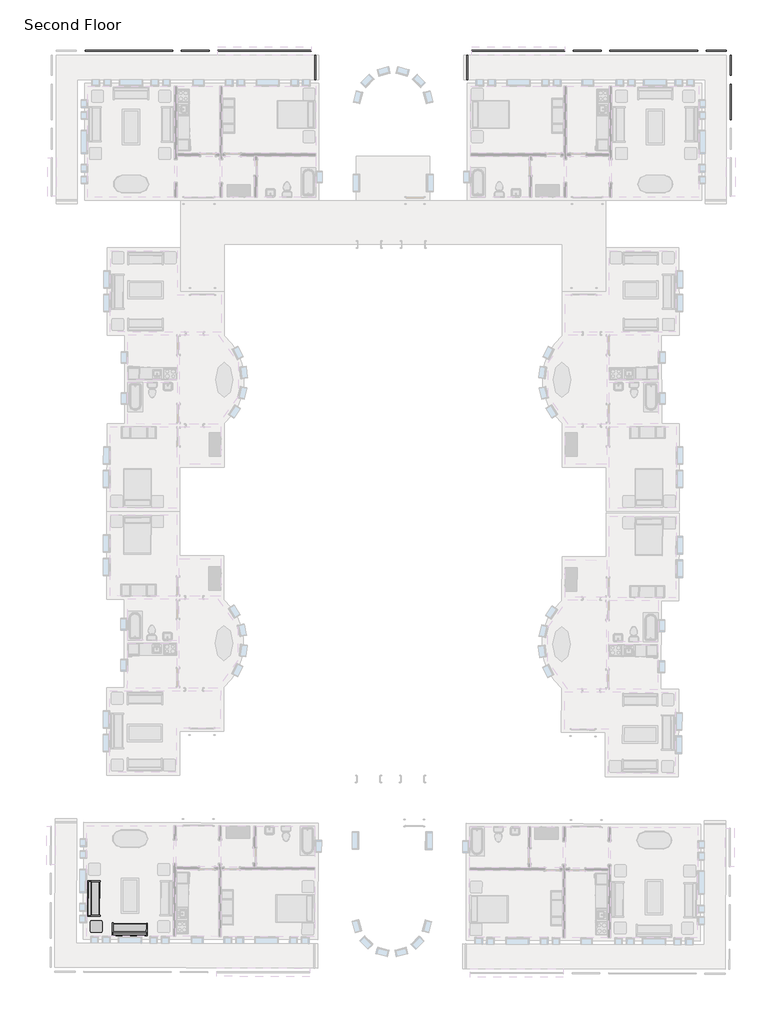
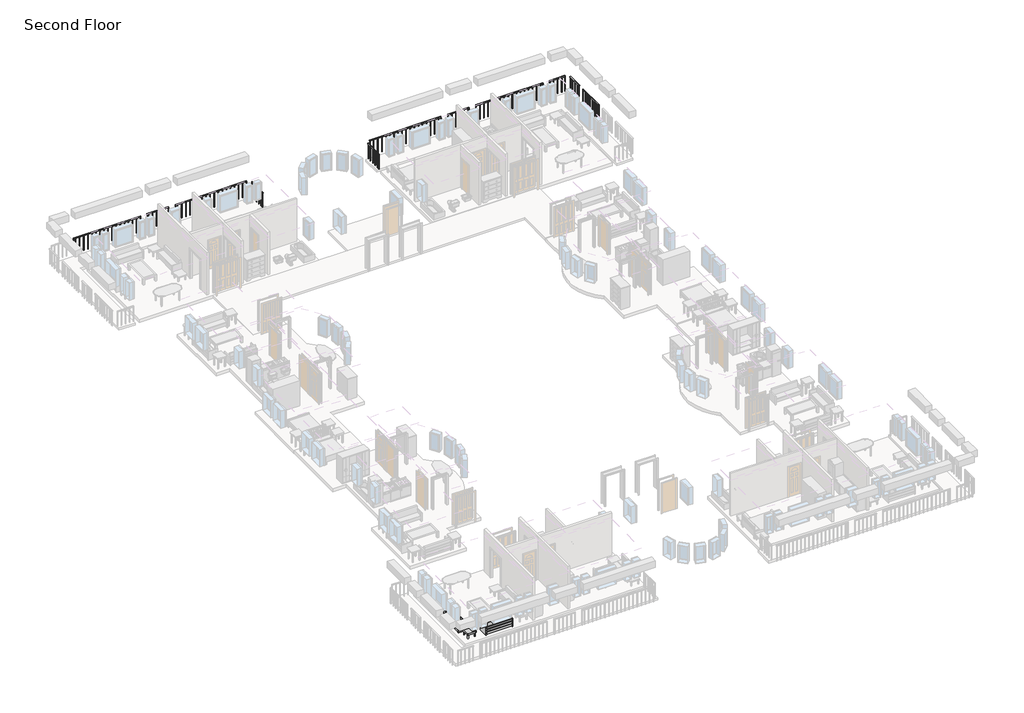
# One storey, part 6 of 8: 11 railings, 3 furniture elements.
"""IFC4 building model written with IfcOpenShell, lengths in millimetres."""

from ifc_helpers import new_model, si_unit, frame, origin, place, context, project, spatial, polyline, outline, extrude, transform, mapped, element, save
from components import m_sofa_1830mm_58d08fc1, m_table_end_cb6ea12e

model = new_model("IFC4")

# Units and contexts
model_context = context("Model", 3, world=origin())
ifc_project = project(units=[si_unit("LENGTHUNIT", "METRE", prefix="MILLI")], contexts=[model_context])

# Site, building, storey
site = spatial("IfcSite", under=ifc_project)
building = spatial("IfcBuilding", under=site)
storey = spatial("IfcBuildingStorey", under=building, Name="Second Floor", Elevation=3048.0)

# Furniture
placement = place(None, origin())
m_sofa_1830mm_shape = m_sofa_1830mm_58d08fc1(model_context)
element("IfcFurniture", 1, ObjectType="M_Sofa : 1830mm", at=placement, inside=storey, context=model_context, shape_type="MappedRepresentation", body=[
    mapped(m_sofa_1830mm_shape, transform((-32562.8997947, -41230.7335351, 3048.0), x_axis=(-0.9999958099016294, 0.0028948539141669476, 0.0), y_axis=(-0.0028948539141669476, -0.9999958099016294, 0.0), z_axis=(0.0, 0.0, 1.0))),
])
element("IfcFurniture", 2, ObjectType="M_Sofa : 1830mm", at=placement, inside=storey, context=model_context, shape_type="MappedRepresentation", body=[
    mapped(m_sofa_1830mm_shape, transform((-34355.4280294, -39842.8427064, 3048.0), x_axis=(0.0028948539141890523, 0.9999958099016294, 0.0), y_axis=(-0.9999958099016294, 0.0028948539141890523, 0.0), z_axis=(0.0, 0.0, 1.0))),
])
m_table_end_shape = m_table_end_cb6ea12e(model_context)
element("IfcFurniture", 3, ObjectType="M_Table-End : 0610 x 0160mm altered height", at=placement, inside=storey, context=model_context, shape_type="MappedRepresentation", body=[
    mapped(m_table_end_shape, transform((-34069.0925084, -41075.1267736, 3048.0), x_axis=(-0.9999958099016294, 0.0028948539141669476, 0.0), y_axis=(-0.0028948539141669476, -0.9999958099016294, 0.0), z_axis=(0.0, 0.0, 1.0))),
])

# Railings
element("IfcRailing", 4, ObjectType="1100mm", at=placement, inside=storey, context=model_context, shape_type="SweptSolid", body=[
    extrude(outline(polyline([(-14885.3416203, 4231.1188386), (-14885.3416203, 4281.1188386), (-10043.3416203, 4281.1188386), (-10043.3416203, 4231.1188386), (-14885.3416203, 4231.1188386)])), frame((0.0, 0.0, 4098.0), z_axis=(0.0, 0.0, 1.0), x_axis=(1.0, 0.0, 0.0)), (0.0, 0.0, 1.0), 50.0),
    extrude(outline(polyline([(-10222.8416203, 4243.6188386), (-10222.8416203, 4268.6188386), (-10197.8416203, 4268.6188386), (-10197.8416203, 4243.6188386), (-10222.8416203, 4243.6188386)])), frame((0.0, 0.0, 3048.0), z_axis=(0.0, 0.0, 1.0), x_axis=(1.0, 0.0, 0.0)), (0.0, 0.0, 1.0), 1050.0),
    extrude(outline(polyline([(-10497.8416203, 4243.6188386), (-10497.8416203, 4268.6188386), (-10472.8416203, 4268.6188386), (-10472.8416203, 4243.6188386), (-10497.8416203, 4243.6188386)])), frame((0.0, 0.0, 3048.0), z_axis=(0.0, 0.0, 1.0), x_axis=(1.0, 0.0, 0.0)), (0.0, 0.0, 1.0), 1050.0),
    extrude(outline(polyline([(-10772.8416203, 4243.6188386), (-10772.8416203, 4268.6188386), (-10747.8416203, 4268.6188386), (-10747.8416203, 4243.6188386), (-10772.8416203, 4243.6188386)])), frame((0.0, 0.0, 3048.0), z_axis=(0.0, 0.0, 1.0), x_axis=(1.0, 0.0, 0.0)), (0.0, 0.0, 1.0), 1050.0),
    extrude(outline(polyline([(-11047.8416203, 4243.6188386), (-11047.8416203, 4268.6188386), (-11022.8416203, 4268.6188386), (-11022.8416203, 4243.6188386), (-11047.8416203, 4243.6188386)])), frame((0.0, 0.0, 3048.0), z_axis=(0.0, 0.0, 1.0), x_axis=(1.0, 0.0, 0.0)), (0.0, 0.0, 1.0), 1050.0),
    extrude(outline(polyline([(-11322.8416203, 4243.6188386), (-11322.8416203, 4268.6188386), (-11297.8416203, 4268.6188386), (-11297.8416203, 4243.6188386), (-11322.8416203, 4243.6188386)])), frame((0.0, 0.0, 3048.0), z_axis=(0.0, 0.0, 1.0), x_axis=(1.0, 0.0, 0.0)), (0.0, 0.0, 1.0), 1050.0),
    extrude(outline(polyline([(-11597.8416203, 4243.6188386), (-11597.8416203, 4268.6188386), (-11572.8416203, 4268.6188386), (-11572.8416203, 4243.6188386), (-11597.8416203, 4243.6188386)])), frame((0.0, 0.0, 3048.0), z_axis=(0.0, 0.0, 1.0), x_axis=(1.0, 0.0, 0.0)), (0.0, 0.0, 1.0), 1050.0),
    extrude(outline(polyline([(-11872.8416203, 4243.6188386), (-11872.8416203, 4268.6188386), (-11847.8416203, 4268.6188386), (-11847.8416203, 4243.6188386), (-11872.8416203, 4243.6188386)])), frame((0.0, 0.0, 3048.0), z_axis=(0.0, 0.0, 1.0), x_axis=(1.0, 0.0, 0.0)), (0.0, 0.0, 1.0), 1050.0),
    extrude(outline(polyline([(-12147.8416203, 4243.6188386), (-12147.8416203, 4268.6188386), (-12122.8416203, 4268.6188386), (-12122.8416203, 4243.6188386), (-12147.8416203, 4243.6188386)])), frame((0.0, 0.0, 3048.0), z_axis=(0.0, 0.0, 1.0), x_axis=(1.0, 0.0, 0.0)), (0.0, 0.0, 1.0), 1050.0),
    extrude(outline(polyline([(-12422.8416203, 4243.6188386), (-12422.8416203, 4268.6188386), (-12397.8416203, 4268.6188386), (-12397.8416203, 4243.6188386), (-12422.8416203, 4243.6188386)])), frame((0.0, 0.0, 3048.0), z_axis=(0.0, 0.0, 1.0), x_axis=(1.0, 0.0, 0.0)), (0.0, 0.0, 1.0), 1050.0),
    extrude(outline(polyline([(-12697.8416203, 4243.6188386), (-12697.8416203, 4268.6188386), (-12672.8416203, 4268.6188386), (-12672.8416203, 4243.6188386), (-12697.8416203, 4243.6188386)])), frame((0.0, 0.0, 3048.0), z_axis=(0.0, 0.0, 1.0), x_axis=(1.0, 0.0, 0.0)), (0.0, 0.0, 1.0), 1050.0),
    extrude(outline(polyline([(-12972.8416203, 4243.6188386), (-12972.8416203, 4268.6188386), (-12947.8416203, 4268.6188386), (-12947.8416203, 4243.6188386), (-12972.8416203, 4243.6188386)])), frame((0.0, 0.0, 3048.0), z_axis=(0.0, 0.0, 1.0), x_axis=(1.0, 0.0, 0.0)), (0.0, 0.0, 1.0), 1050.0),
    extrude(outline(polyline([(-13247.8416203, 4243.6188386), (-13247.8416203, 4268.6188386), (-13222.8416203, 4268.6188386), (-13222.8416203, 4243.6188386), (-13247.8416203, 4243.6188386)])), frame((0.0, 0.0, 3048.0), z_axis=(0.0, 0.0, 1.0), x_axis=(1.0, 0.0, 0.0)), (0.0, 0.0, 1.0), 1050.0),
    extrude(outline(polyline([(-13522.8416203, 4243.6188386), (-13522.8416203, 4268.6188386), (-13497.8416203, 4268.6188386), (-13497.8416203, 4243.6188386), (-13522.8416203, 4243.6188386)])), frame((0.0, 0.0, 3048.0), z_axis=(0.0, 0.0, 1.0), x_axis=(1.0, 0.0, 0.0)), (0.0, 0.0, 1.0), 1050.0),
    extrude(outline(polyline([(-13797.8416203, 4243.6188386), (-13797.8416203, 4268.6188386), (-13772.8416203, 4268.6188386), (-13772.8416203, 4243.6188386), (-13797.8416203, 4243.6188386)])), frame((0.0, 0.0, 3048.0), z_axis=(0.0, 0.0, 1.0), x_axis=(1.0, 0.0, 0.0)), (0.0, 0.0, 1.0), 1050.0),
    extrude(outline(polyline([(-14072.8416203, 4243.6188386), (-14072.8416203, 4268.6188386), (-14047.8416203, 4268.6188386), (-14047.8416203, 4243.6188386), (-14072.8416203, 4243.6188386)])), frame((0.0, 0.0, 3048.0), z_axis=(0.0, 0.0, 1.0), x_axis=(1.0, 0.0, 0.0)), (0.0, 0.0, 1.0), 1050.0),
    extrude(outline(polyline([(-14347.8416203, 4243.6188386), (-14347.8416203, 4268.6188386), (-14322.8416203, 4268.6188386), (-14322.8416203, 4243.6188386), (-14347.8416203, 4243.6188386)])), frame((0.0, 0.0, 3048.0), z_axis=(0.0, 0.0, 1.0), x_axis=(1.0, 0.0, 0.0)), (0.0, 0.0, 1.0), 1050.0),
    extrude(outline(polyline([(-14622.8416203, 4243.6188386), (-14622.8416203, 4268.6188386), (-14597.8416203, 4268.6188386), (-14597.8416203, 4243.6188386), (-14622.8416203, 4243.6188386)])), frame((0.0, 0.0, 3048.0), z_axis=(0.0, 0.0, 1.0), x_axis=(1.0, 0.0, 0.0)), (0.0, 0.0, 1.0), 1050.0),
    extrude(outline(polyline([(-10068.3416203, 4243.6188386), (-10068.3416203, 4268.6188386), (-10043.3416203, 4268.6188386), (-10043.3416203, 4243.6188386), (-10068.3416203, 4243.6188386)])), frame((0.0, 0.0, 3048.0), z_axis=(0.0, 0.0, 1.0), x_axis=(1.0, 0.0, 0.0)), (0.0, 0.0, 1.0), 1050.0),
    extrude(outline(polyline([(-14885.3416203, 4243.6188386), (-14885.3416203, 4268.6188386), (-14860.3416203, 4268.6188386), (-14860.3416203, 4243.6188386), (-14885.3416203, 4243.6188386)])), frame((0.0, 0.0, 3048.0), z_axis=(0.0, 0.0, 1.0), x_axis=(1.0, 0.0, 0.0)), (0.0, 0.0, 1.0), 1050.0),
])
element("IfcRailing", 5, ObjectType="1100mm", at=placement, inside=storey, context=model_context, shape_type="SweptSolid", body=[
    extrude(outline(polyline([(-9593.3416203, 4231.1188386), (-9593.3416203, 4281.1188386), (-8143.3416203, 4281.1188386), (-8143.3416203, 4231.1188386), (-9593.3416203, 4231.1188386)])), frame((0.0, 0.0, 4098.0), z_axis=(0.0, 0.0, 1.0), x_axis=(1.0, 0.0, 0.0)), (0.0, 0.0, 1.0), 50.0),
    extrude(outline(polyline([(-8230.8416203, 4243.6188386), (-8230.8416203, 4268.6188386), (-8205.8416203, 4268.6188386), (-8205.8416203, 4243.6188386), (-8230.8416203, 4243.6188386)])), frame((0.0, 0.0, 3048.0), z_axis=(0.0, 0.0, 1.0), x_axis=(1.0, 0.0, 0.0)), (0.0, 0.0, 1.0), 1050.0),
    extrude(outline(polyline([(-8505.8416203, 4243.6188386), (-8505.8416203, 4268.6188386), (-8480.8416203, 4268.6188386), (-8480.8416203, 4243.6188386), (-8505.8416203, 4243.6188386)])), frame((0.0, 0.0, 3048.0), z_axis=(0.0, 0.0, 1.0), x_axis=(1.0, 0.0, 0.0)), (0.0, 0.0, 1.0), 1050.0),
    extrude(outline(polyline([(-8780.8416203, 4243.6188386), (-8780.8416203, 4268.6188386), (-8755.8416203, 4268.6188386), (-8755.8416203, 4243.6188386), (-8780.8416203, 4243.6188386)])), frame((0.0, 0.0, 3048.0), z_axis=(0.0, 0.0, 1.0), x_axis=(1.0, 0.0, 0.0)), (0.0, 0.0, 1.0), 1050.0),
    extrude(outline(polyline([(-9055.8416203, 4243.6188386), (-9055.8416203, 4268.6188386), (-9030.8416203, 4268.6188386), (-9030.8416203, 4243.6188386), (-9055.8416203, 4243.6188386)])), frame((0.0, 0.0, 3048.0), z_axis=(0.0, 0.0, 1.0), x_axis=(1.0, 0.0, 0.0)), (0.0, 0.0, 1.0), 1050.0),
    extrude(outline(polyline([(-9330.8416203, 4243.6188386), (-9330.8416203, 4268.6188386), (-9305.8416203, 4268.6188386), (-9305.8416203, 4243.6188386), (-9330.8416203, 4243.6188386)])), frame((0.0, 0.0, 3048.0), z_axis=(0.0, 0.0, 1.0), x_axis=(1.0, 0.0, 0.0)), (0.0, 0.0, 1.0), 1050.0),
    extrude(outline(polyline([(-8168.3416203, 4243.6188386), (-8168.3416203, 4268.6188386), (-8143.3416203, 4268.6188386), (-8143.3416203, 4243.6188386), (-8168.3416203, 4243.6188386)])), frame((0.0, 0.0, 3048.0), z_axis=(0.0, 0.0, 1.0), x_axis=(1.0, 0.0, 0.0)), (0.0, 0.0, 1.0), 1050.0),
    extrude(outline(polyline([(-9593.3416203, 4243.6188386), (-9593.3416203, 4268.6188386), (-9568.3416203, 4268.6188386), (-9568.3416203, 4243.6188386), (-9593.3416203, 4243.6188386)])), frame((0.0, 0.0, 3048.0), z_axis=(0.0, 0.0, 1.0), x_axis=(1.0, 0.0, 0.0)), (0.0, 0.0, 1.0), 1050.0),
])
element("IfcRailing", 6, ObjectType="1100mm", at=placement, inside=storey, context=model_context, shape_type="SweptSolid", body=[
    extrude(outline(polyline([(-7693.3416203, 4231.1188386), (-7693.3416203, 4281.1188386), (-3143.3416203, 4281.1188386), (-3143.3416203, 4231.1188386), (-7693.3416203, 4231.1188386)])), frame((0.0, 0.0, 4098.0), z_axis=(0.0, 0.0, 1.0), x_axis=(1.0, 0.0, 0.0)), (0.0, 0.0, 1.0), 50.0),
    extrude(outline(polyline([(-3305.8416203, 4243.6188386), (-3305.8416203, 4268.6188386), (-3280.8416203, 4268.6188386), (-3280.8416203, 4243.6188386), (-3305.8416203, 4243.6188386)])), frame((0.0, 0.0, 3048.0), z_axis=(0.0, 0.0, 1.0), x_axis=(1.0, 0.0, 0.0)), (0.0, 0.0, 1.0), 1050.0),
    extrude(outline(polyline([(-3580.8416203, 4243.6188386), (-3580.8416203, 4268.6188386), (-3555.8416203, 4268.6188386), (-3555.8416203, 4243.6188386), (-3580.8416203, 4243.6188386)])), frame((0.0, 0.0, 3048.0), z_axis=(0.0, 0.0, 1.0), x_axis=(1.0, 0.0, 0.0)), (0.0, 0.0, 1.0), 1050.0),
    extrude(outline(polyline([(-3855.8416203, 4243.6188386), (-3855.8416203, 4268.6188386), (-3830.8416203, 4268.6188386), (-3830.8416203, 4243.6188386), (-3855.8416203, 4243.6188386)])), frame((0.0, 0.0, 3048.0), z_axis=(0.0, 0.0, 1.0), x_axis=(1.0, 0.0, 0.0)), (0.0, 0.0, 1.0), 1050.0),
    extrude(outline(polyline([(-4130.8416203, 4243.6188386), (-4130.8416203, 4268.6188386), (-4105.8416203, 4268.6188386), (-4105.8416203, 4243.6188386), (-4130.8416203, 4243.6188386)])), frame((0.0, 0.0, 3048.0), z_axis=(0.0, 0.0, 1.0), x_axis=(1.0, 0.0, 0.0)), (0.0, 0.0, 1.0), 1050.0),
    extrude(outline(polyline([(-4405.8416203, 4243.6188386), (-4405.8416203, 4268.6188386), (-4380.8416203, 4268.6188386), (-4380.8416203, 4243.6188386), (-4405.8416203, 4243.6188386)])), frame((0.0, 0.0, 3048.0), z_axis=(0.0, 0.0, 1.0), x_axis=(1.0, 0.0, 0.0)), (0.0, 0.0, 1.0), 1050.0),
    extrude(outline(polyline([(-4680.8416203, 4243.6188386), (-4680.8416203, 4268.6188386), (-4655.8416203, 4268.6188386), (-4655.8416203, 4243.6188386), (-4680.8416203, 4243.6188386)])), frame((0.0, 0.0, 3048.0), z_axis=(0.0, 0.0, 1.0), x_axis=(1.0, 0.0, 0.0)), (0.0, 0.0, 1.0), 1050.0),
    extrude(outline(polyline([(-4955.8416203, 4243.6188386), (-4955.8416203, 4268.6188386), (-4930.8416203, 4268.6188386), (-4930.8416203, 4243.6188386), (-4955.8416203, 4243.6188386)])), frame((0.0, 0.0, 3048.0), z_axis=(0.0, 0.0, 1.0), x_axis=(1.0, 0.0, 0.0)), (0.0, 0.0, 1.0), 1050.0),
    extrude(outline(polyline([(-5230.8416203, 4243.6188386), (-5230.8416203, 4268.6188386), (-5205.8416203, 4268.6188386), (-5205.8416203, 4243.6188386), (-5230.8416203, 4243.6188386)])), frame((0.0, 0.0, 3048.0), z_axis=(0.0, 0.0, 1.0), x_axis=(1.0, 0.0, 0.0)), (0.0, 0.0, 1.0), 1050.0),
    extrude(outline(polyline([(-5505.8416203, 4243.6188386), (-5505.8416203, 4268.6188386), (-5480.8416203, 4268.6188386), (-5480.8416203, 4243.6188386), (-5505.8416203, 4243.6188386)])), frame((0.0, 0.0, 3048.0), z_axis=(0.0, 0.0, 1.0), x_axis=(1.0, 0.0, 0.0)), (0.0, 0.0, 1.0), 1050.0),
    extrude(outline(polyline([(-5780.8416203, 4243.6188386), (-5780.8416203, 4268.6188386), (-5755.8416203, 4268.6188386), (-5755.8416203, 4243.6188386), (-5780.8416203, 4243.6188386)])), frame((0.0, 0.0, 3048.0), z_axis=(0.0, 0.0, 1.0), x_axis=(1.0, 0.0, 0.0)), (0.0, 0.0, 1.0), 1050.0),
    extrude(outline(polyline([(-6055.8416203, 4243.6188386), (-6055.8416203, 4268.6188386), (-6030.8416203, 4268.6188386), (-6030.8416203, 4243.6188386), (-6055.8416203, 4243.6188386)])), frame((0.0, 0.0, 3048.0), z_axis=(0.0, 0.0, 1.0), x_axis=(1.0, 0.0, 0.0)), (0.0, 0.0, 1.0), 1050.0),
    extrude(outline(polyline([(-6330.8416203, 4243.6188386), (-6330.8416203, 4268.6188386), (-6305.8416203, 4268.6188386), (-6305.8416203, 4243.6188386), (-6330.8416203, 4243.6188386)])), frame((0.0, 0.0, 3048.0), z_axis=(0.0, 0.0, 1.0), x_axis=(1.0, 0.0, 0.0)), (0.0, 0.0, 1.0), 1050.0),
    extrude(outline(polyline([(-6605.8416203, 4243.6188386), (-6605.8416203, 4268.6188386), (-6580.8416203, 4268.6188386), (-6580.8416203, 4243.6188386), (-6605.8416203, 4243.6188386)])), frame((0.0, 0.0, 3048.0), z_axis=(0.0, 0.0, 1.0), x_axis=(1.0, 0.0, 0.0)), (0.0, 0.0, 1.0), 1050.0),
    extrude(outline(polyline([(-6880.8416203, 4243.6188386), (-6880.8416203, 4268.6188386), (-6855.8416203, 4268.6188386), (-6855.8416203, 4243.6188386), (-6880.8416203, 4243.6188386)])), frame((0.0, 0.0, 3048.0), z_axis=(0.0, 0.0, 1.0), x_axis=(1.0, 0.0, 0.0)), (0.0, 0.0, 1.0), 1050.0),
    extrude(outline(polyline([(-7155.8416203, 4243.6188386), (-7155.8416203, 4268.6188386), (-7130.8416203, 4268.6188386), (-7130.8416203, 4243.6188386), (-7155.8416203, 4243.6188386)])), frame((0.0, 0.0, 3048.0), z_axis=(0.0, 0.0, 1.0), x_axis=(1.0, 0.0, 0.0)), (0.0, 0.0, 1.0), 1050.0),
    extrude(outline(polyline([(-7430.8416203, 4243.6188386), (-7430.8416203, 4268.6188386), (-7405.8416203, 4268.6188386), (-7405.8416203, 4243.6188386), (-7430.8416203, 4243.6188386)])), frame((0.0, 0.0, 3048.0), z_axis=(0.0, 0.0, 1.0), x_axis=(1.0, 0.0, 0.0)), (0.0, 0.0, 1.0), 1050.0),
    extrude(outline(polyline([(-3168.3416203, 4243.6188386), (-3168.3416203, 4268.6188386), (-3143.3416203, 4268.6188386), (-3143.3416203, 4243.6188386), (-3168.3416203, 4243.6188386)])), frame((0.0, 0.0, 3048.0), z_axis=(0.0, 0.0, 1.0), x_axis=(1.0, 0.0, 0.0)), (0.0, 0.0, 1.0), 1050.0),
    extrude(outline(polyline([(-7693.3416203, 4243.6188386), (-7693.3416203, 4268.6188386), (-7668.3416203, 4268.6188386), (-7668.3416203, 4243.6188386), (-7693.3416203, 4243.6188386)])), frame((0.0, 0.0, 3048.0), z_axis=(0.0, 0.0, 1.0), x_axis=(1.0, 0.0, 0.0)), (0.0, 0.0, 1.0), 1050.0),
])
element("IfcRailing", 7, ObjectType="1100mm", at=placement, inside=storey, context=model_context, shape_type="SweptSolid", body=[
    extrude(outline(polyline([(-2693.3416203, 4231.1188386), (-2693.3416203, 4281.1188386), (-1643.3416203, 4281.1188386), (-1643.3416203, 4231.1188386), (-2693.3416203, 4231.1188386)])), frame((0.0, 0.0, 4098.0), z_axis=(0.0, 0.0, 1.0), x_axis=(1.0, 0.0, 0.0)), (0.0, 0.0, 1.0), 50.0),
    extrude(outline(polyline([(-1880.8416203, 4243.6188386), (-1880.8416203, 4268.6188386), (-1855.8416203, 4268.6188386), (-1855.8416203, 4243.6188386), (-1880.8416203, 4243.6188386)])), frame((0.0, 0.0, 3048.0), z_axis=(0.0, 0.0, 1.0), x_axis=(1.0, 0.0, 0.0)), (0.0, 0.0, 1.0), 1050.0),
    extrude(outline(polyline([(-2155.8416203, 4243.6188386), (-2155.8416203, 4268.6188386), (-2130.8416203, 4268.6188386), (-2130.8416203, 4243.6188386), (-2155.8416203, 4243.6188386)])), frame((0.0, 0.0, 3048.0), z_axis=(0.0, 0.0, 1.0), x_axis=(1.0, 0.0, 0.0)), (0.0, 0.0, 1.0), 1050.0),
    extrude(outline(polyline([(-2430.8416203, 4243.6188386), (-2430.8416203, 4268.6188386), (-2405.8416203, 4268.6188386), (-2405.8416203, 4243.6188386), (-2430.8416203, 4243.6188386)])), frame((0.0, 0.0, 3048.0), z_axis=(0.0, 0.0, 1.0), x_axis=(1.0, 0.0, 0.0)), (0.0, 0.0, 1.0), 1050.0),
    extrude(outline(polyline([(-1668.3416203, 4243.6188386), (-1668.3416203, 4268.6188386), (-1643.3416203, 4268.6188386), (-1643.3416203, 4243.6188386), (-1668.3416203, 4243.6188386)])), frame((0.0, 0.0, 3048.0), z_axis=(0.0, 0.0, 1.0), x_axis=(1.0, 0.0, 0.0)), (0.0, 0.0, 1.0), 1050.0),
    extrude(outline(polyline([(-2693.3416203, 4243.6188386), (-2693.3416203, 4268.6188386), (-2668.3416203, 4268.6188386), (-2668.3416203, 4243.6188386), (-2693.3416203, 4243.6188386)])), frame((0.0, 0.0, 3048.0), z_axis=(0.0, 0.0, 1.0), x_axis=(1.0, 0.0, 0.0)), (0.0, 0.0, 1.0), 1050.0),
])
element("IfcRailing", 8, ObjectType="1100mm", at=placement, inside=storey, context=model_context, shape_type="SweptSolid", body=[
    extrude(outline(polyline([(-1443.3416203, 4031.1188386), (-1393.3416203, 4031.1188386), (-1393.3416203, 2981.1188386), (-1443.3416203, 2981.1188386), (-1443.3416203, 4031.1188386)])), frame((0.0, 0.0, 4098.0), z_axis=(0.0, 0.0, 1.0), x_axis=(1.0, 0.0, 0.0)), (0.0, 0.0, 1.0), 50.0),
    extrude(outline(polyline([(-1430.8416203, 3218.6188386), (-1405.8416203, 3218.6188386), (-1405.8416203, 3193.6188386), (-1430.8416203, 3193.6188386), (-1430.8416203, 3218.6188386)])), frame((0.0, 0.0, 3048.0), z_axis=(0.0, 0.0, 1.0), x_axis=(1.0, 0.0, 0.0)), (0.0, 0.0, 1.0), 1050.0),
    extrude(outline(polyline([(-1430.8416203, 3493.6188386), (-1405.8416203, 3493.6188386), (-1405.8416203, 3468.6188386), (-1430.8416203, 3468.6188386), (-1430.8416203, 3493.6188386)])), frame((0.0, 0.0, 3048.0), z_axis=(0.0, 0.0, 1.0), x_axis=(1.0, 0.0, 0.0)), (0.0, 0.0, 1.0), 1050.0),
    extrude(outline(polyline([(-1430.8416203, 3768.6188386), (-1405.8416203, 3768.6188386), (-1405.8416203, 3743.6188386), (-1430.8416203, 3743.6188386), (-1430.8416203, 3768.6188386)])), frame((0.0, 0.0, 3048.0), z_axis=(0.0, 0.0, 1.0), x_axis=(1.0, 0.0, 0.0)), (0.0, 0.0, 1.0), 1050.0),
    extrude(outline(polyline([(-1430.8416203, 3006.1188386), (-1405.8416203, 3006.1188386), (-1405.8416203, 2981.1188386), (-1430.8416203, 2981.1188386), (-1430.8416203, 3006.1188386)])), frame((0.0, 0.0, 3048.0), z_axis=(0.0, 0.0, 1.0), x_axis=(1.0, 0.0, 0.0)), (0.0, 0.0, 1.0), 1050.0),
    extrude(outline(polyline([(-1430.8416203, 4031.1188386), (-1405.8416203, 4031.1188386), (-1405.8416203, 4006.1188386), (-1430.8416203, 4006.1188386), (-1430.8416203, 4031.1188386)])), frame((0.0, 0.0, 3048.0), z_axis=(0.0, 0.0, 1.0), x_axis=(1.0, 0.0, 0.0)), (0.0, 0.0, 1.0), 1050.0),
])
element("IfcRailing", 9, ObjectType="1100mm", at=placement, inside=storey, context=model_context, shape_type="SweptSolid", body=[
    extrude(outline(polyline([(-1443.3416203, 2531.1188386), (-1393.3416203, 2531.1188386), (-1393.3416203, 681.1188386), (-1443.3416203, 681.1188386), (-1443.3416203, 2531.1188386)])), frame((0.0, 0.0, 4098.0), z_axis=(0.0, 0.0, 1.0), x_axis=(1.0, 0.0, 0.0)), (0.0, 0.0, 1.0), 50.0),
    extrude(outline(polyline([(-1430.8416203, 893.6188386), (-1405.8416203, 893.6188386), (-1405.8416203, 868.6188386), (-1430.8416203, 868.6188386), (-1430.8416203, 893.6188386)])), frame((0.0, 0.0, 3048.0), z_axis=(0.0, 0.0, 1.0), x_axis=(1.0, 0.0, 0.0)), (0.0, 0.0, 1.0), 1050.0),
    extrude(outline(polyline([(-1430.8416203, 1168.6188386), (-1405.8416203, 1168.6188386), (-1405.8416203, 1143.6188386), (-1430.8416203, 1143.6188386), (-1430.8416203, 1168.6188386)])), frame((0.0, 0.0, 3048.0), z_axis=(0.0, 0.0, 1.0), x_axis=(1.0, 0.0, 0.0)), (0.0, 0.0, 1.0), 1050.0),
    extrude(outline(polyline([(-1430.8416203, 1443.6188386), (-1405.8416203, 1443.6188386), (-1405.8416203, 1418.6188386), (-1430.8416203, 1418.6188386), (-1430.8416203, 1443.6188386)])), frame((0.0, 0.0, 3048.0), z_axis=(0.0, 0.0, 1.0), x_axis=(1.0, 0.0, 0.0)), (0.0, 0.0, 1.0), 1050.0),
    extrude(outline(polyline([(-1430.8416203, 1718.6188386), (-1405.8416203, 1718.6188386), (-1405.8416203, 1693.6188386), (-1430.8416203, 1693.6188386), (-1430.8416203, 1718.6188386)])), frame((0.0, 0.0, 3048.0), z_axis=(0.0, 0.0, 1.0), x_axis=(1.0, 0.0, 0.0)), (0.0, 0.0, 1.0), 1050.0),
    extrude(outline(polyline([(-1430.8416203, 1993.6188386), (-1405.8416203, 1993.6188386), (-1405.8416203, 1968.6188386), (-1430.8416203, 1968.6188386), (-1430.8416203, 1993.6188386)])), frame((0.0, 0.0, 3048.0), z_axis=(0.0, 0.0, 1.0), x_axis=(1.0, 0.0, 0.0)), (0.0, 0.0, 1.0), 1050.0),
    extrude(outline(polyline([(-1430.8416203, 2268.6188386), (-1405.8416203, 2268.6188386), (-1405.8416203, 2243.6188386), (-1430.8416203, 2243.6188386), (-1430.8416203, 2268.6188386)])), frame((0.0, 0.0, 3048.0), z_axis=(0.0, 0.0, 1.0), x_axis=(1.0, 0.0, 0.0)), (0.0, 0.0, 1.0), 1050.0),
    extrude(outline(polyline([(-1430.8416203, 706.1188386), (-1405.8416203, 706.1188386), (-1405.8416203, 681.1188386), (-1430.8416203, 681.1188386), (-1430.8416203, 706.1188386)])), frame((0.0, 0.0, 3048.0), z_axis=(0.0, 0.0, 1.0), x_axis=(1.0, 0.0, 0.0)), (0.0, 0.0, 1.0), 1050.0),
    extrude(outline(polyline([(-1430.8416203, 2531.1188386), (-1405.8416203, 2531.1188386), (-1405.8416203, 2506.1188386), (-1430.8416203, 2506.1188386), (-1430.8416203, 2531.1188386)])), frame((0.0, 0.0, 3048.0), z_axis=(0.0, 0.0, 1.0), x_axis=(1.0, 0.0, 0.0)), (0.0, 0.0, 1.0), 1050.0),
])
element("IfcRailing", 10, ObjectType="1100mm", at=placement, inside=storey, context=model_context, shape_type="SweptSolid", body=[
    extrude(outline(polyline([(-15135.3416203, 4031.1188386), (-15085.3416203, 4031.1188386), (-15085.3416203, 2756.1188386), (-15135.3416203, 2756.1188386), (-15135.3416203, 4031.1188386)])), frame((0.0, 0.0, 4098.0), z_axis=(0.0, 0.0, 1.0), x_axis=(1.0, 0.0, 0.0)), (0.0, 0.0, 1.0), 50.0),
    extrude(outline(polyline([(-15122.8416203, 2943.6188386), (-15097.8416203, 2943.6188386), (-15097.8416203, 2918.6188386), (-15122.8416203, 2918.6188386), (-15122.8416203, 2943.6188386)])), frame((0.0, 0.0, 3048.0), z_axis=(0.0, 0.0, 1.0), x_axis=(1.0, 0.0, 0.0)), (0.0, 0.0, 1.0), 1050.0),
    extrude(outline(polyline([(-15122.8416203, 3218.6188386), (-15097.8416203, 3218.6188386), (-15097.8416203, 3193.6188386), (-15122.8416203, 3193.6188386), (-15122.8416203, 3218.6188386)])), frame((0.0, 0.0, 3048.0), z_axis=(0.0, 0.0, 1.0), x_axis=(1.0, 0.0, 0.0)), (0.0, 0.0, 1.0), 1050.0),
    extrude(outline(polyline([(-15122.8416203, 3493.6188386), (-15097.8416203, 3493.6188386), (-15097.8416203, 3468.6188386), (-15122.8416203, 3468.6188386), (-15122.8416203, 3493.6188386)])), frame((0.0, 0.0, 3048.0), z_axis=(0.0, 0.0, 1.0), x_axis=(1.0, 0.0, 0.0)), (0.0, 0.0, 1.0), 1050.0),
    extrude(outline(polyline([(-15122.8416203, 3768.6188386), (-15097.8416203, 3768.6188386), (-15097.8416203, 3743.6188386), (-15122.8416203, 3743.6188386), (-15122.8416203, 3768.6188386)])), frame((0.0, 0.0, 3048.0), z_axis=(0.0, 0.0, 1.0), x_axis=(1.0, 0.0, 0.0)), (0.0, 0.0, 1.0), 1050.0),
    extrude(outline(polyline([(-15122.8416203, 2781.1188386), (-15097.8416203, 2781.1188386), (-15097.8416203, 2756.1188386), (-15122.8416203, 2756.1188386), (-15122.8416203, 2781.1188386)])), frame((0.0, 0.0, 3048.0), z_axis=(0.0, 0.0, 1.0), x_axis=(1.0, 0.0, 0.0)), (0.0, 0.0, 1.0), 1050.0),
    extrude(outline(polyline([(-15122.8416203, 4031.1188386), (-15097.8416203, 4031.1188386), (-15097.8416203, 4006.1188386), (-15122.8416203, 4006.1188386), (-15122.8416203, 4031.1188386)])), frame((0.0, 0.0, 3048.0), z_axis=(0.0, 0.0, 1.0), x_axis=(1.0, 0.0, 0.0)), (0.0, 0.0, 1.0), 1050.0),
])
element("IfcRailing", 11, ObjectType="1100mm", at=placement, inside=storey, context=model_context, shape_type="SweptSolid", body=[
    extrude(outline(polyline([(-23216.8416203, 4281.1188386), (-23216.8416203, 4231.1188386), (-28058.8416203, 4231.1188386), (-28058.8416203, 4281.1188386), (-23216.8416203, 4281.1188386)])), frame((0.0, 0.0, 4098.0), z_axis=(0.0, 0.0, 1.0), x_axis=(1.0, 0.0, 0.0)), (0.0, 0.0, 1.0), 50.0),
    extrude(outline(polyline([(-27879.3416203, 4243.6188386), (-27904.3416203, 4243.6188386), (-27904.3416203, 4268.6188386), (-27879.3416203, 4268.6188386), (-27879.3416203, 4243.6188386)])), frame((0.0, 0.0, 3048.0), z_axis=(0.0, 0.0, 1.0), x_axis=(1.0, 0.0, 0.0)), (0.0, 0.0, 1.0), 1050.0),
    extrude(outline(polyline([(-27604.3416203, 4243.6188386), (-27629.3416203, 4243.6188386), (-27629.3416203, 4268.6188386), (-27604.3416203, 4268.6188386), (-27604.3416203, 4243.6188386)])), frame((0.0, 0.0, 3048.0), z_axis=(0.0, 0.0, 1.0), x_axis=(1.0, 0.0, 0.0)), (0.0, 0.0, 1.0), 1050.0),
    extrude(outline(polyline([(-27329.3416203, 4243.6188386), (-27354.3416203, 4243.6188386), (-27354.3416203, 4268.6188386), (-27329.3416203, 4268.6188386), (-27329.3416203, 4243.6188386)])), frame((0.0, 0.0, 3048.0), z_axis=(0.0, 0.0, 1.0), x_axis=(1.0, 0.0, 0.0)), (0.0, 0.0, 1.0), 1050.0),
    extrude(outline(polyline([(-27054.3416203, 4243.6188386), (-27079.3416203, 4243.6188386), (-27079.3416203, 4268.6188386), (-27054.3416203, 4268.6188386), (-27054.3416203, 4243.6188386)])), frame((0.0, 0.0, 3048.0), z_axis=(0.0, 0.0, 1.0), x_axis=(1.0, 0.0, 0.0)), (0.0, 0.0, 1.0), 1050.0),
    extrude(outline(polyline([(-26779.3416203, 4243.6188386), (-26804.3416203, 4243.6188386), (-26804.3416203, 4268.6188386), (-26779.3416203, 4268.6188386), (-26779.3416203, 4243.6188386)])), frame((0.0, 0.0, 3048.0), z_axis=(0.0, 0.0, 1.0), x_axis=(1.0, 0.0, 0.0)), (0.0, 0.0, 1.0), 1050.0),
    extrude(outline(polyline([(-26504.3416203, 4243.6188386), (-26529.3416203, 4243.6188386), (-26529.3416203, 4268.6188386), (-26504.3416203, 4268.6188386), (-26504.3416203, 4243.6188386)])), frame((0.0, 0.0, 3048.0), z_axis=(0.0, 0.0, 1.0), x_axis=(1.0, 0.0, 0.0)), (0.0, 0.0, 1.0), 1050.0),
    extrude(outline(polyline([(-26229.3416203, 4243.6188386), (-26254.3416203, 4243.6188386), (-26254.3416203, 4268.6188386), (-26229.3416203, 4268.6188386), (-26229.3416203, 4243.6188386)])), frame((0.0, 0.0, 3048.0), z_axis=(0.0, 0.0, 1.0), x_axis=(1.0, 0.0, 0.0)), (0.0, 0.0, 1.0), 1050.0),
    extrude(outline(polyline([(-25954.3416203, 4243.6188386), (-25979.3416203, 4243.6188386), (-25979.3416203, 4268.6188386), (-25954.3416203, 4268.6188386), (-25954.3416203, 4243.6188386)])), frame((0.0, 0.0, 3048.0), z_axis=(0.0, 0.0, 1.0), x_axis=(1.0, 0.0, 0.0)), (0.0, 0.0, 1.0), 1050.0),
    extrude(outline(polyline([(-25679.3416203, 4243.6188386), (-25704.3416203, 4243.6188386), (-25704.3416203, 4268.6188386), (-25679.3416203, 4268.6188386), (-25679.3416203, 4243.6188386)])), frame((0.0, 0.0, 3048.0), z_axis=(0.0, 0.0, 1.0), x_axis=(1.0, 0.0, 0.0)), (0.0, 0.0, 1.0), 1050.0),
    extrude(outline(polyline([(-25404.3416203, 4243.6188386), (-25429.3416203, 4243.6188386), (-25429.3416203, 4268.6188386), (-25404.3416203, 4268.6188386), (-25404.3416203, 4243.6188386)])), frame((0.0, 0.0, 3048.0), z_axis=(0.0, 0.0, 1.0), x_axis=(1.0, 0.0, 0.0)), (0.0, 0.0, 1.0), 1050.0),
    extrude(outline(polyline([(-25129.3416203, 4243.6188386), (-25154.3416203, 4243.6188386), (-25154.3416203, 4268.6188386), (-25129.3416203, 4268.6188386), (-25129.3416203, 4243.6188386)])), frame((0.0, 0.0, 3048.0), z_axis=(0.0, 0.0, 1.0), x_axis=(1.0, 0.0, 0.0)), (0.0, 0.0, 1.0), 1050.0),
    extrude(outline(polyline([(-24854.3416203, 4243.6188386), (-24879.3416203, 4243.6188386), (-24879.3416203, 4268.6188386), (-24854.3416203, 4268.6188386), (-24854.3416203, 4243.6188386)])), frame((0.0, 0.0, 3048.0), z_axis=(0.0, 0.0, 1.0), x_axis=(1.0, 0.0, 0.0)), (0.0, 0.0, 1.0), 1050.0),
    extrude(outline(polyline([(-24579.3416203, 4243.6188386), (-24604.3416203, 4243.6188386), (-24604.3416203, 4268.6188386), (-24579.3416203, 4268.6188386), (-24579.3416203, 4243.6188386)])), frame((0.0, 0.0, 3048.0), z_axis=(0.0, 0.0, 1.0), x_axis=(1.0, 0.0, 0.0)), (0.0, 0.0, 1.0), 1050.0),
    extrude(outline(polyline([(-24304.3416203, 4243.6188386), (-24329.3416203, 4243.6188386), (-24329.3416203, 4268.6188386), (-24304.3416203, 4268.6188386), (-24304.3416203, 4243.6188386)])), frame((0.0, 0.0, 3048.0), z_axis=(0.0, 0.0, 1.0), x_axis=(1.0, 0.0, 0.0)), (0.0, 0.0, 1.0), 1050.0),
    extrude(outline(polyline([(-24029.3416203, 4243.6188386), (-24054.3416203, 4243.6188386), (-24054.3416203, 4268.6188386), (-24029.3416203, 4268.6188386), (-24029.3416203, 4243.6188386)])), frame((0.0, 0.0, 3048.0), z_axis=(0.0, 0.0, 1.0), x_axis=(1.0, 0.0, 0.0)), (0.0, 0.0, 1.0), 1050.0),
    extrude(outline(polyline([(-23754.3416203, 4243.6188386), (-23779.3416203, 4243.6188386), (-23779.3416203, 4268.6188386), (-23754.3416203, 4268.6188386), (-23754.3416203, 4243.6188386)])), frame((0.0, 0.0, 3048.0), z_axis=(0.0, 0.0, 1.0), x_axis=(1.0, 0.0, 0.0)), (0.0, 0.0, 1.0), 1050.0),
    extrude(outline(polyline([(-23479.3416203, 4243.6188386), (-23504.3416203, 4243.6188386), (-23504.3416203, 4268.6188386), (-23479.3416203, 4268.6188386), (-23479.3416203, 4243.6188386)])), frame((0.0, 0.0, 3048.0), z_axis=(0.0, 0.0, 1.0), x_axis=(1.0, 0.0, 0.0)), (0.0, 0.0, 1.0), 1050.0),
    extrude(outline(polyline([(-28033.8416203, 4243.6188386), (-28058.8416203, 4243.6188386), (-28058.8416203, 4268.6188386), (-28033.8416203, 4268.6188386), (-28033.8416203, 4243.6188386)])), frame((0.0, 0.0, 3048.0), z_axis=(0.0, 0.0, 1.0), x_axis=(1.0, 0.0, 0.0)), (0.0, 0.0, 1.0), 1050.0),
    extrude(outline(polyline([(-23216.8416203, 4243.6188386), (-23241.8416203, 4243.6188386), (-23241.8416203, 4268.6188386), (-23216.8416203, 4268.6188386), (-23216.8416203, 4243.6188386)])), frame((0.0, 0.0, 3048.0), z_axis=(0.0, 0.0, 1.0), x_axis=(1.0, 0.0, 0.0)), (0.0, 0.0, 1.0), 1050.0),
])
element("IfcRailing", 12, ObjectType="1100mm", at=placement, inside=storey, context=model_context, shape_type="SweptSolid", body=[
    extrude(outline(polyline([(-28508.8416203, 4281.1188386), (-28508.8416203, 4231.1188386), (-29958.8416203, 4231.1188386), (-29958.8416203, 4281.1188386), (-28508.8416203, 4281.1188386)])), frame((0.0, 0.0, 4098.0), z_axis=(0.0, 0.0, 1.0), x_axis=(1.0, 0.0, 0.0)), (0.0, 0.0, 1.0), 50.0),
    extrude(outline(polyline([(-29871.3416203, 4243.6188386), (-29896.3416203, 4243.6188386), (-29896.3416203, 4268.6188386), (-29871.3416203, 4268.6188386), (-29871.3416203, 4243.6188386)])), frame((0.0, 0.0, 3048.0), z_axis=(0.0, 0.0, 1.0), x_axis=(1.0, 0.0, 0.0)), (0.0, 0.0, 1.0), 1050.0),
    extrude(outline(polyline([(-29596.3416203, 4243.6188386), (-29621.3416203, 4243.6188386), (-29621.3416203, 4268.6188386), (-29596.3416203, 4268.6188386), (-29596.3416203, 4243.6188386)])), frame((0.0, 0.0, 3048.0), z_axis=(0.0, 0.0, 1.0), x_axis=(1.0, 0.0, 0.0)), (0.0, 0.0, 1.0), 1050.0),
    extrude(outline(polyline([(-29321.3416203, 4243.6188386), (-29346.3416203, 4243.6188386), (-29346.3416203, 4268.6188386), (-29321.3416203, 4268.6188386), (-29321.3416203, 4243.6188386)])), frame((0.0, 0.0, 3048.0), z_axis=(0.0, 0.0, 1.0), x_axis=(1.0, 0.0, 0.0)), (0.0, 0.0, 1.0), 1050.0),
    extrude(outline(polyline([(-29046.3416203, 4243.6188386), (-29071.3416203, 4243.6188386), (-29071.3416203, 4268.6188386), (-29046.3416203, 4268.6188386), (-29046.3416203, 4243.6188386)])), frame((0.0, 0.0, 3048.0), z_axis=(0.0, 0.0, 1.0), x_axis=(1.0, 0.0, 0.0)), (0.0, 0.0, 1.0), 1050.0),
    extrude(outline(polyline([(-28771.3416203, 4243.6188386), (-28796.3416203, 4243.6188386), (-28796.3416203, 4268.6188386), (-28771.3416203, 4268.6188386), (-28771.3416203, 4243.6188386)])), frame((0.0, 0.0, 3048.0), z_axis=(0.0, 0.0, 1.0), x_axis=(1.0, 0.0, 0.0)), (0.0, 0.0, 1.0), 1050.0),
    extrude(outline(polyline([(-29933.8416203, 4243.6188386), (-29958.8416203, 4243.6188386), (-29958.8416203, 4268.6188386), (-29933.8416203, 4268.6188386), (-29933.8416203, 4243.6188386)])), frame((0.0, 0.0, 3048.0), z_axis=(0.0, 0.0, 1.0), x_axis=(1.0, 0.0, 0.0)), (0.0, 0.0, 1.0), 1050.0),
    extrude(outline(polyline([(-28508.8416203, 4243.6188386), (-28533.8416203, 4243.6188386), (-28533.8416203, 4268.6188386), (-28508.8416203, 4268.6188386), (-28508.8416203, 4243.6188386)])), frame((0.0, 0.0, 3048.0), z_axis=(0.0, 0.0, 1.0), x_axis=(1.0, 0.0, 0.0)), (0.0, 0.0, 1.0), 1050.0),
])
element("IfcRailing", 13, ObjectType="1100mm", at=placement, inside=storey, context=model_context, shape_type="SweptSolid", body=[
    extrude(outline(polyline([(-30408.8416203, 4281.1188386), (-30408.8416203, 4231.1188386), (-34958.8416203, 4231.1188386), (-34958.8416203, 4281.1188386), (-30408.8416203, 4281.1188386)])), frame((0.0, 0.0, 4098.0), z_axis=(0.0, 0.0, 1.0), x_axis=(1.0, 0.0, 0.0)), (0.0, 0.0, 1.0), 50.0),
    extrude(outline(polyline([(-34796.3416203, 4243.6188386), (-34821.3416203, 4243.6188386), (-34821.3416203, 4268.6188386), (-34796.3416203, 4268.6188386), (-34796.3416203, 4243.6188386)])), frame((0.0, 0.0, 3048.0), z_axis=(0.0, 0.0, 1.0), x_axis=(1.0, 0.0, 0.0)), (0.0, 0.0, 1.0), 1050.0),
    extrude(outline(polyline([(-34521.3416203, 4243.6188386), (-34546.3416203, 4243.6188386), (-34546.3416203, 4268.6188386), (-34521.3416203, 4268.6188386), (-34521.3416203, 4243.6188386)])), frame((0.0, 0.0, 3048.0), z_axis=(0.0, 0.0, 1.0), x_axis=(1.0, 0.0, 0.0)), (0.0, 0.0, 1.0), 1050.0),
    extrude(outline(polyline([(-34246.3416203, 4243.6188386), (-34271.3416203, 4243.6188386), (-34271.3416203, 4268.6188386), (-34246.3416203, 4268.6188386), (-34246.3416203, 4243.6188386)])), frame((0.0, 0.0, 3048.0), z_axis=(0.0, 0.0, 1.0), x_axis=(1.0, 0.0, 0.0)), (0.0, 0.0, 1.0), 1050.0),
    extrude(outline(polyline([(-33971.3416203, 4243.6188386), (-33996.3416203, 4243.6188386), (-33996.3416203, 4268.6188386), (-33971.3416203, 4268.6188386), (-33971.3416203, 4243.6188386)])), frame((0.0, 0.0, 3048.0), z_axis=(0.0, 0.0, 1.0), x_axis=(1.0, 0.0, 0.0)), (0.0, 0.0, 1.0), 1050.0),
    extrude(outline(polyline([(-33696.3416203, 4243.6188386), (-33721.3416203, 4243.6188386), (-33721.3416203, 4268.6188386), (-33696.3416203, 4268.6188386), (-33696.3416203, 4243.6188386)])), frame((0.0, 0.0, 3048.0), z_axis=(0.0, 0.0, 1.0), x_axis=(1.0, 0.0, 0.0)), (0.0, 0.0, 1.0), 1050.0),
    extrude(outline(polyline([(-33421.3416203, 4243.6188386), (-33446.3416203, 4243.6188386), (-33446.3416203, 4268.6188386), (-33421.3416203, 4268.6188386), (-33421.3416203, 4243.6188386)])), frame((0.0, 0.0, 3048.0), z_axis=(0.0, 0.0, 1.0), x_axis=(1.0, 0.0, 0.0)), (0.0, 0.0, 1.0), 1050.0),
    extrude(outline(polyline([(-33146.3416203, 4243.6188386), (-33171.3416203, 4243.6188386), (-33171.3416203, 4268.6188386), (-33146.3416203, 4268.6188386), (-33146.3416203, 4243.6188386)])), frame((0.0, 0.0, 3048.0), z_axis=(0.0, 0.0, 1.0), x_axis=(1.0, 0.0, 0.0)), (0.0, 0.0, 1.0), 1050.0),
    extrude(outline(polyline([(-32871.3416203, 4243.6188386), (-32896.3416203, 4243.6188386), (-32896.3416203, 4268.6188386), (-32871.3416203, 4268.6188386), (-32871.3416203, 4243.6188386)])), frame((0.0, 0.0, 3048.0), z_axis=(0.0, 0.0, 1.0), x_axis=(1.0, 0.0, 0.0)), (0.0, 0.0, 1.0), 1050.0),
    extrude(outline(polyline([(-32596.3416203, 4243.6188386), (-32621.3416203, 4243.6188386), (-32621.3416203, 4268.6188386), (-32596.3416203, 4268.6188386), (-32596.3416203, 4243.6188386)])), frame((0.0, 0.0, 3048.0), z_axis=(0.0, 0.0, 1.0), x_axis=(1.0, 0.0, 0.0)), (0.0, 0.0, 1.0), 1050.0),
    extrude(outline(polyline([(-32321.3416203, 4243.6188386), (-32346.3416203, 4243.6188386), (-32346.3416203, 4268.6188386), (-32321.3416203, 4268.6188386), (-32321.3416203, 4243.6188386)])), frame((0.0, 0.0, 3048.0), z_axis=(0.0, 0.0, 1.0), x_axis=(1.0, 0.0, 0.0)), (0.0, 0.0, 1.0), 1050.0),
    extrude(outline(polyline([(-32046.3416203, 4243.6188386), (-32071.3416203, 4243.6188386), (-32071.3416203, 4268.6188386), (-32046.3416203, 4268.6188386), (-32046.3416203, 4243.6188386)])), frame((0.0, 0.0, 3048.0), z_axis=(0.0, 0.0, 1.0), x_axis=(1.0, 0.0, 0.0)), (0.0, 0.0, 1.0), 1050.0),
    extrude(outline(polyline([(-31771.3416203, 4243.6188386), (-31796.3416203, 4243.6188386), (-31796.3416203, 4268.6188386), (-31771.3416203, 4268.6188386), (-31771.3416203, 4243.6188386)])), frame((0.0, 0.0, 3048.0), z_axis=(0.0, 0.0, 1.0), x_axis=(1.0, 0.0, 0.0)), (0.0, 0.0, 1.0), 1050.0),
    extrude(outline(polyline([(-31496.3416203, 4243.6188386), (-31521.3416203, 4243.6188386), (-31521.3416203, 4268.6188386), (-31496.3416203, 4268.6188386), (-31496.3416203, 4243.6188386)])), frame((0.0, 0.0, 3048.0), z_axis=(0.0, 0.0, 1.0), x_axis=(1.0, 0.0, 0.0)), (0.0, 0.0, 1.0), 1050.0),
    extrude(outline(polyline([(-31221.3416203, 4243.6188386), (-31246.3416203, 4243.6188386), (-31246.3416203, 4268.6188386), (-31221.3416203, 4268.6188386), (-31221.3416203, 4243.6188386)])), frame((0.0, 0.0, 3048.0), z_axis=(0.0, 0.0, 1.0), x_axis=(1.0, 0.0, 0.0)), (0.0, 0.0, 1.0), 1050.0),
    extrude(outline(polyline([(-30946.3416203, 4243.6188386), (-30971.3416203, 4243.6188386), (-30971.3416203, 4268.6188386), (-30946.3416203, 4268.6188386), (-30946.3416203, 4243.6188386)])), frame((0.0, 0.0, 3048.0), z_axis=(0.0, 0.0, 1.0), x_axis=(1.0, 0.0, 0.0)), (0.0, 0.0, 1.0), 1050.0),
    extrude(outline(polyline([(-30671.3416203, 4243.6188386), (-30696.3416203, 4243.6188386), (-30696.3416203, 4268.6188386), (-30671.3416203, 4268.6188386), (-30671.3416203, 4243.6188386)])), frame((0.0, 0.0, 3048.0), z_axis=(0.0, 0.0, 1.0), x_axis=(1.0, 0.0, 0.0)), (0.0, 0.0, 1.0), 1050.0),
    extrude(outline(polyline([(-34933.8416203, 4243.6188386), (-34958.8416203, 4243.6188386), (-34958.8416203, 4268.6188386), (-34933.8416203, 4268.6188386), (-34933.8416203, 4243.6188386)])), frame((0.0, 0.0, 3048.0), z_axis=(0.0, 0.0, 1.0), x_axis=(1.0, 0.0, 0.0)), (0.0, 0.0, 1.0), 1050.0),
    extrude(outline(polyline([(-30408.8416203, 4243.6188386), (-30433.8416203, 4243.6188386), (-30433.8416203, 4268.6188386), (-30408.8416203, 4268.6188386), (-30408.8416203, 4243.6188386)])), frame((0.0, 0.0, 3048.0), z_axis=(0.0, 0.0, 1.0), x_axis=(1.0, 0.0, 0.0)), (0.0, 0.0, 1.0), 1050.0),
])
element("IfcRailing", 14, ObjectType="1100mm", at=placement, inside=storey, context=model_context, shape_type="SweptSolid", body=[
    extrude(outline(polyline([(-23016.8416203, 4031.1188386), (-22966.8416203, 4031.1188386), (-22966.8416203, 2756.1188386), (-23016.8416203, 2756.1188386), (-23016.8416203, 4031.1188386)])), frame((0.0, 0.0, 4098.0), z_axis=(0.0, 0.0, 1.0), x_axis=(1.0, 0.0, 0.0)), (0.0, 0.0, 1.0), 50.0),
    extrude(outline(polyline([(-22979.3416203, 2943.6188386), (-22979.3416203, 2918.6188386), (-23004.3416203, 2918.6188386), (-23004.3416203, 2943.6188386), (-22979.3416203, 2943.6188386)])), frame((0.0, 0.0, 3048.0), z_axis=(0.0, 0.0, 1.0), x_axis=(1.0, 0.0, 0.0)), (0.0, 0.0, 1.0), 1050.0),
    extrude(outline(polyline([(-22979.3416203, 3218.6188386), (-22979.3416203, 3193.6188386), (-23004.3416203, 3193.6188386), (-23004.3416203, 3218.6188386), (-22979.3416203, 3218.6188386)])), frame((0.0, 0.0, 3048.0), z_axis=(0.0, 0.0, 1.0), x_axis=(1.0, 0.0, 0.0)), (0.0, 0.0, 1.0), 1050.0),
    extrude(outline(polyline([(-22979.3416203, 3493.6188386), (-22979.3416203, 3468.6188386), (-23004.3416203, 3468.6188386), (-23004.3416203, 3493.6188386), (-22979.3416203, 3493.6188386)])), frame((0.0, 0.0, 3048.0), z_axis=(0.0, 0.0, 1.0), x_axis=(1.0, 0.0, 0.0)), (0.0, 0.0, 1.0), 1050.0),
    extrude(outline(polyline([(-22979.3416203, 3768.6188386), (-22979.3416203, 3743.6188386), (-23004.3416203, 3743.6188386), (-23004.3416203, 3768.6188386), (-22979.3416203, 3768.6188386)])), frame((0.0, 0.0, 3048.0), z_axis=(0.0, 0.0, 1.0), x_axis=(1.0, 0.0, 0.0)), (0.0, 0.0, 1.0), 1050.0),
    extrude(outline(polyline([(-22979.3416203, 2781.1188386), (-22979.3416203, 2756.1188386), (-23004.3416203, 2756.1188386), (-23004.3416203, 2781.1188386), (-22979.3416203, 2781.1188386)])), frame((0.0, 0.0, 3048.0), z_axis=(0.0, 0.0, 1.0), x_axis=(1.0, 0.0, 0.0)), (0.0, 0.0, 1.0), 1050.0),
    extrude(outline(polyline([(-22979.3416203, 4031.1188386), (-22979.3416203, 4006.1188386), (-23004.3416203, 4006.1188386), (-23004.3416203, 4031.1188386), (-22979.3416203, 4031.1188386)])), frame((0.0, 0.0, 3048.0), z_axis=(0.0, 0.0, 1.0), x_axis=(1.0, 0.0, 0.0)), (0.0, 0.0, 1.0), 1050.0),
])

save(model, "model.ifc")
